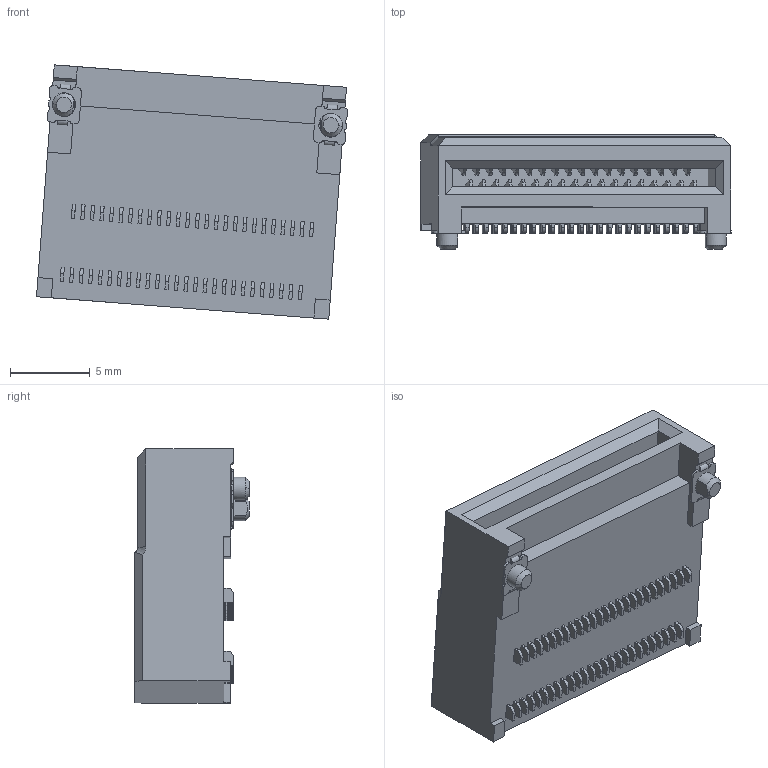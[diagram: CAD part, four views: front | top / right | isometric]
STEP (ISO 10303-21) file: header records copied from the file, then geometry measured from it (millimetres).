
FILE_DESCRIPTION((''),'2;1');
FILE_NAME('QSFP224_CUSTOMER','2026-06-23T15:06:40',('39002408'),(''),'CREO PARAMETRIC BY PTC INC, 2019471','CREO PARAMETRIC BY PTC INC, 2019471','');
FILE_SCHEMA(('CONFIG_CONTROL_DESIGN'));
Length unit declared in the file: millimetre
Products named in the file (1): QSFP224_CUSTOMER
Bounding box: 19.52 x 7.2 x 15.97 mm (x, y, z)
Volume: 1339.4 mm3; surface area: 1281.8 mm2
Topology: 1 solids, 7 shells, 753 faces, 1908 edges, 1220 vertices
Faces by surface type: plane 587, cylinder 152, bspline 8, cone 6
Entity records: 22704 total; most frequent: CARTESIAN_POINT 4353, ORIENTED_EDGE 3808, DIRECTION 3688, EDGE_CURVE 1908, VECTOR 1568, LINE 1568, VERTEX_POINT 1220, AXIS2_PLACEMENT_3D 1060
